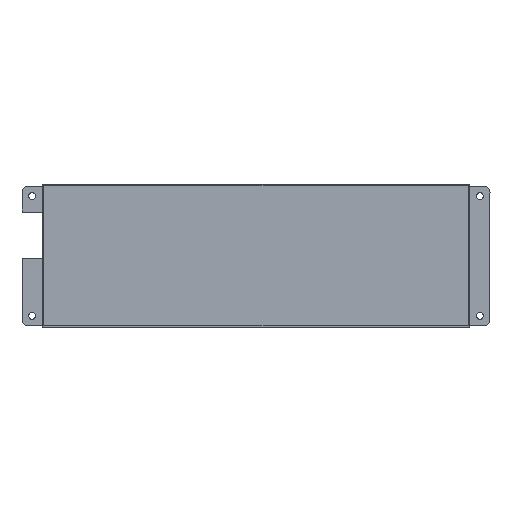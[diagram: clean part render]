
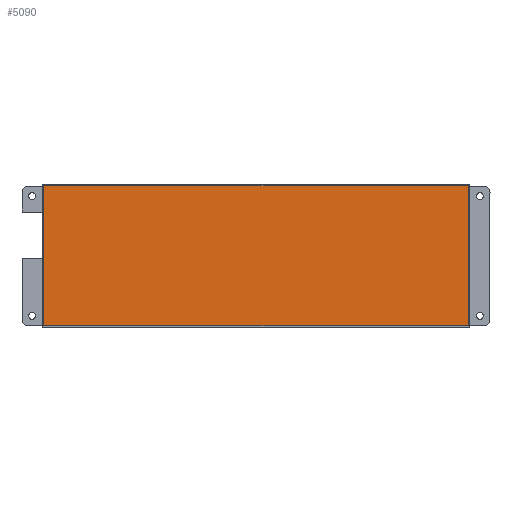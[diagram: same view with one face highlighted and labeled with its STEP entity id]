
A CAD part, top view. The second image highlights one B-rep face of the part: STEP entity #5090.
In plain terms, the highlighted planar face has unit normal (0, 0, 1).
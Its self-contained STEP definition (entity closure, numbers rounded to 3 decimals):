
#1459=DIRECTION('',(-1.,0.,0.));
#1460=VECTOR('',#1459,205.93);
#1461=CARTESIAN_POINT('',(102.99,33.95,2.));
#1462=LINE('',#1461,#1460);
#1463=DIRECTION('',(0.,1.,0.));
#1464=VECTOR('',#1463,67.9);
#1465=CARTESIAN_POINT('',(102.99,-33.95,2.));
#1466=LINE('',#1465,#1464);
#1467=DIRECTION('',(1.,0.,0.));
#1468=VECTOR('',#1467,205.93);
#1469=CARTESIAN_POINT('',(-102.94,-33.95,2.));
#1470=LINE('',#1469,#1468);
#1471=DIRECTION('',(0.,-1.,0.));
#1472=VECTOR('',#1471,67.9);
#1473=CARTESIAN_POINT('',(-102.94,33.95,2.));
#1474=LINE('',#1473,#1472);
#2239=CARTESIAN_POINT('',(102.99,33.95,2.));
#2240=CARTESIAN_POINT('',(-102.94,33.95,2.));
#2241=VERTEX_POINT('',#2239);
#2242=VERTEX_POINT('',#2240);
#2243=CARTESIAN_POINT('',(-102.94,-33.95,2.));
#2244=VERTEX_POINT('',#2243);
#2245=CARTESIAN_POINT('',(102.99,-33.95,2.));
#2246=VERTEX_POINT('',#2245);
#5079=CARTESIAN_POINT('',(0.025,0.,2.));
#5080=DIRECTION('',(0.,0.,1.));
#5081=DIRECTION('',(1.,0.,0.));
#5082=AXIS2_PLACEMENT_3D('',#5079,#5080,#5081);
#5083=PLANE('',#5082);
#5084=ORIENTED_EDGE('',*,*,#5031,.F.);
#5085=ORIENTED_EDGE('',*,*,#5046,.F.);
#5086=ORIENTED_EDGE('',*,*,#5060,.F.);
#5087=ORIENTED_EDGE('',*,*,#5073,.F.);
#5088=EDGE_LOOP('',(#5084,#5085,#5086,#5087));
#5089=FACE_OUTER_BOUND('',#5088,.F.);
#5031=EDGE_CURVE('',#2241,#2242,#1462,.T.);
#5046=EDGE_CURVE('',#2246,#2241,#1466,.T.);
#5060=EDGE_CURVE('',#2244,#2246,#1470,.T.);
#5073=EDGE_CURVE('',#2242,#2244,#1474,.T.);
#5090=ADVANCED_FACE('',(#5089),#5083,.T.);
